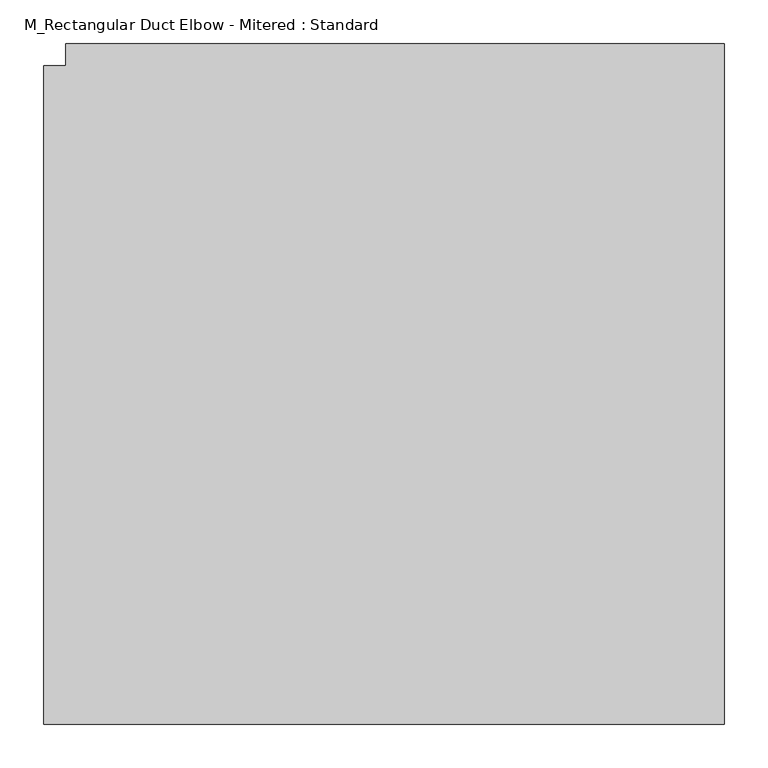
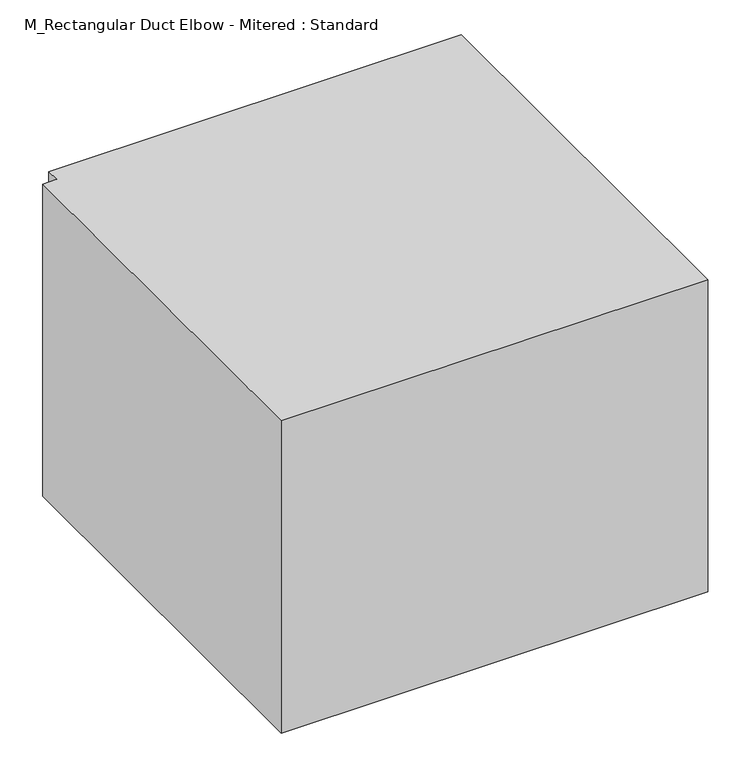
"""IFC4 building model written with IfcOpenShell, lengths in millimetres: duct fitting geometry, M_Rectangular Duct Elbow - Mitered : Standard."""

from ifc_helpers import new_model, si_unit, frame, origin, place, context, project, spatial, polyline, outline, extrude, source, transform, mapped, element, save


def m_rectangular_duct_elbow_mitered_standard_e08549d3(model_context):
    return source(origin(), model_context, "Body", "SweptSolid", [
        extrude(outline(polyline([(-400.0, -375.0), (-400.0, 375.0), (-375.0, 375.0), (-375.0, 400.0), (375.0, 400.0), (375.0, -375.0), (-400.0, -375.0)])), frame((0.0, 0.0, -300.0), z_axis=(0.0, 0.0, 1.0), x_axis=(1.0, 0.0, 0.0)), (0.0, 0.0, 1.0), 600.0),
        extrude(outline(polyline([(-400.0, -375.0), (-400.0, 375.0), (-375.0, 375.0), (-375.0, 400.0), (375.0, 400.0), (375.0, -375.0), (-400.0, -375.0)])), frame((0.0, 0.0, -300.0), z_axis=(0.0, 0.0, 1.0), x_axis=(1.0, 0.0, 0.0)), (0.0, 0.0, 1.0), 600.0),
        extrude(outline(polyline([(-400.0, -375.0), (-400.0, 375.0), (-375.0, 375.0), (-375.0, 400.0), (375.0, 400.0), (375.0, -375.0), (-400.0, -375.0)])), frame((0.0, 0.0, -300.0), z_axis=(0.0, 0.0, 1.0), x_axis=(1.0, 0.0, 0.0)), (0.0, 0.0, 1.0), 600.0),
    ])


if __name__ == "__main__":
    model = new_model("IFC4")
    model_context = context("Model", 3, world=origin())
    ifc_project = project(units=[si_unit("LENGTHUNIT", "METRE", prefix="MILLI")], contexts=[model_context])
    site = spatial("IfcSite", under=ifc_project)
    building = spatial("IfcBuilding", under=site)
    placement = place(None, origin())
    m_rectangular_duct_elbow_mitered_standard_shape = m_rectangular_duct_elbow_mitered_standard_e08549d3(model_context)
    element("IfcDuctFitting", 1, ObjectType="M_Rectangular Duct Elbow - Mitered : Standard", at=placement, inside=building, context=model_context, shape_type="MappedRepresentation", body=[
        mapped(m_rectangular_duct_elbow_mitered_standard_shape, transform((0.0, 0.0, 0.0), x_axis=(1.0, 0.0, 0.0), y_axis=(0.0, 1.0, 0.0), z_axis=(0.0, 0.0, 1.0))),
    ])
    save(model, "model.ifc")
